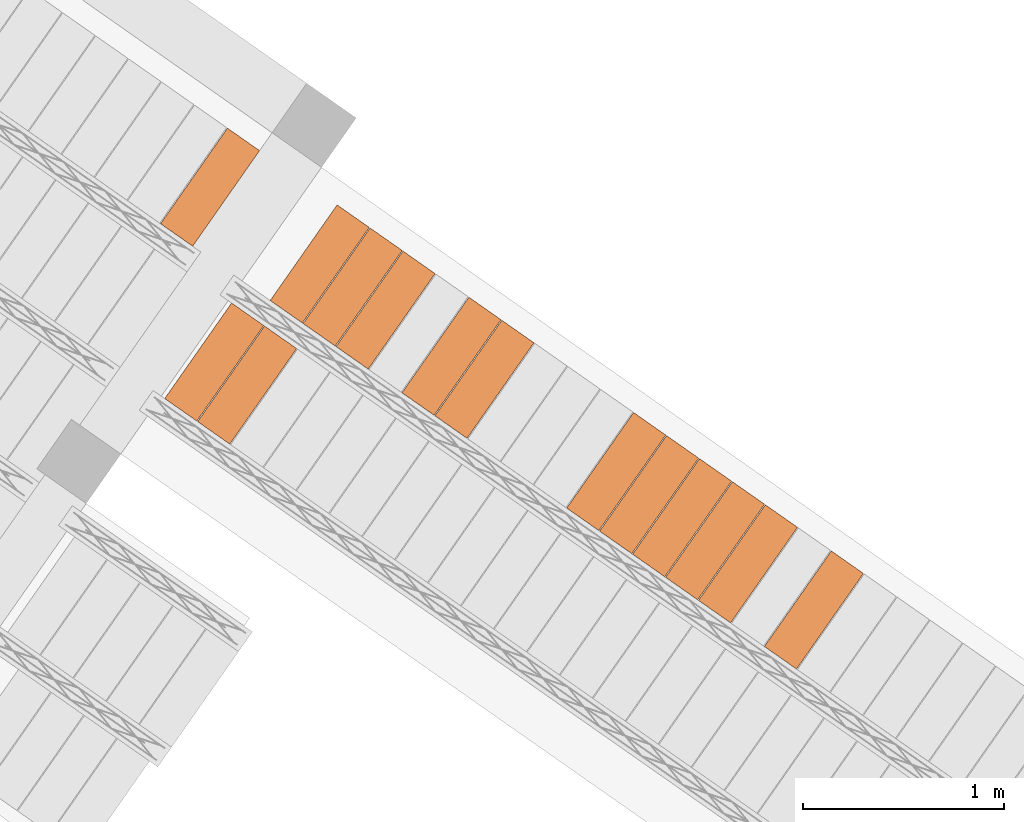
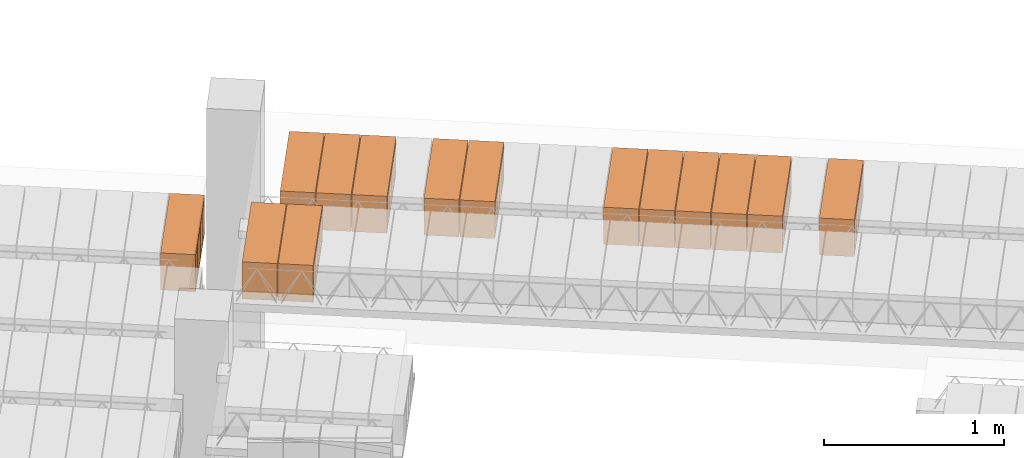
# One storey, part 79 of 80: 14 proxies.
"""IFC2X3 building model written with IfcOpenShell, lengths in metres."""

from ifc_helpers import new_model, entity, si_unit, converted_unit, derived_unit, direction, frame, origin, place, context, subcontext, project, spatial, polyline, outline, extrude, type_object, element, save


model = new_model("IFC2X3")

# Units and contexts
model_context = context("Model", 3, precision=1e-05, world=origin(), true_north=direction((6.123031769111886e-17, 1.0)))
body_context = subcontext(model_context, "Body", "Model", "MODEL_VIEW")
ifc_project = project(units=[si_unit("LENGTHUNIT", "METRE"), si_unit("AREAUNIT", "SQUARE_METRE"), si_unit("VOLUMEUNIT", "CUBIC_METRE"), converted_unit("PLANEANGLEUNIT", "DEGREE", entity("IfcPlaneAngleMeasure", 0.017453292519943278), si_unit("PLANEANGLEUNIT", "RADIAN"), dimensions=[0, 0, 0, 0, 0, 0, 0]), si_unit("MASSUNIT", "GRAM", prefix="KILO"), derived_unit("MASSDENSITYUNIT", [(si_unit("MASSUNIT", "GRAM", prefix="KILO"), 1), (si_unit("LENGTHUNIT", "METRE"), -3)]), derived_unit("IONCONCENTRATIONUNIT", [(si_unit("MASSUNIT", "GRAM", prefix="KILO"), 1), (si_unit("LENGTHUNIT", "METRE"), -3)]), derived_unit("MOMENTOFINERTIAUNIT", [(si_unit("LENGTHUNIT", "METRE"), 4)]), si_unit("TIMEUNIT", "SECOND"), si_unit("FREQUENCYUNIT", "HERTZ"), si_unit("THERMODYNAMICTEMPERATUREUNIT", "DEGREE_CELSIUS"), derived_unit("THERMALTRANSMITTANCEUNIT", [(si_unit("MASSUNIT", "GRAM", prefix="KILO"), 1), (si_unit("THERMODYNAMICTEMPERATUREUNIT", "KELVIN"), -1), (si_unit("TIMEUNIT", "SECOND"), -3)]), derived_unit("THERMALCONDUCTANCEUNIT", [(si_unit("MASSUNIT", "GRAM", prefix="KILO"), 1), (si_unit("THERMODYNAMICTEMPERATUREUNIT", "KELVIN"), -1), (si_unit("TIMEUNIT", "SECOND"), -3), (si_unit("LENGTHUNIT", "METRE"), 1)]), derived_unit("VOLUMETRICFLOWRATEUNIT", [(si_unit("LENGTHUNIT", "METRE", prefix="DECI"), 3), (si_unit("TIMEUNIT", "SECOND"), -1)]), derived_unit("MASSFLOWRATEUNIT", [(si_unit("MASSUNIT", "GRAM", prefix="KILO"), 1), (si_unit("TIMEUNIT", "SECOND"), -1)]), derived_unit("ROTATIONALFREQUENCYUNIT", [(si_unit("TIMEUNIT", "SECOND"), -1)]), si_unit("ELECTRICCURRENTUNIT", "AMPERE"), si_unit("ELECTRICVOLTAGEUNIT", "VOLT"), si_unit("POWERUNIT", "WATT"), si_unit("FORCEUNIT", "NEWTON", prefix="KILO"), si_unit("ILLUMINANCEUNIT", "LUX"), si_unit("LUMINOUSFLUXUNIT", "LUMEN"), si_unit("LUMINOUSINTENSITYUNIT", "CANDELA"), si_unit("ENERGYUNIT", "JOULE"), derived_unit("USERDEFINED", [(si_unit("MASSUNIT", "GRAM", prefix="KILO"), -1), (si_unit("LENGTHUNIT", "METRE"), -2), (si_unit("TIMEUNIT", "SECOND"), 3), (si_unit("LUMINOUSFLUXUNIT", "LUMEN"), 1)]), derived_unit("USERDEFINED", [(si_unit("MASSUNIT", "GRAM", prefix="KILO"), 1), (si_unit("TIMEUNIT", "SECOND"), -3), (si_unit("LENGTHUNIT", "METRE"), 3), (si_unit("ELECTRICCURRENTUNIT", "AMPERE"), -2)]), derived_unit("SOUNDPOWERUNIT", [(si_unit("MASSUNIT", "GRAM", prefix="KILO"), 1), (si_unit("TIMEUNIT", "SECOND"), -3), (si_unit("LENGTHUNIT", "METRE"), 2)]), derived_unit("SOUNDPRESSUREUNIT", [(si_unit("MASSUNIT", "GRAM", prefix="KILO"), 1), (si_unit("LENGTHUNIT", "METRE"), -1), (si_unit("TIMEUNIT", "SECOND"), -2)]), derived_unit("LINEARVELOCITYUNIT", [(si_unit("LENGTHUNIT", "METRE"), 1), (si_unit("TIMEUNIT", "SECOND"), -1)]), si_unit("PRESSUREUNIT", "PASCAL"), derived_unit("USERDEFINED", [(si_unit("MASSUNIT", "GRAM", prefix="KILO"), 1), (si_unit("LENGTHUNIT", "METRE"), -2), (si_unit("TIMEUNIT", "SECOND"), -2)]), derived_unit("LINEARFORCEUNIT", [(si_unit("MASSUNIT", "GRAM", prefix="KILO"), 1), (si_unit("TIMEUNIT", "SECOND"), -2)]), derived_unit("PLANARFORCEUNIT", [(si_unit("MASSUNIT", "GRAM", prefix="KILO"), 1), (si_unit("LENGTHUNIT", "METRE"), -1), (si_unit("TIMEUNIT", "SECOND"), -2)]), derived_unit("SPECIFICHEATCAPACITYUNIT", [(si_unit("THERMODYNAMICTEMPERATUREUNIT", "KELVIN"), -1), (si_unit("LENGTHUNIT", "METRE"), 2), (si_unit("TIMEUNIT", "SECOND"), -2)]), derived_unit("HEATFLUXDENSITYUNIT", [(si_unit("MASSUNIT", "GRAM", prefix="KILO"), 1), (si_unit("TIMEUNIT", "SECOND"), -3)]), derived_unit("HEATINGVALUEUNIT", [(si_unit("LENGTHUNIT", "METRE"), 2), (si_unit("TIMEUNIT", "SECOND"), -2)]), derived_unit("VAPORPERMEABILITYUNIT", [(si_unit("LENGTHUNIT", "METRE"), -1), (si_unit("TIMEUNIT", "SECOND"), 1)]), derived_unit("DYNAMICVISCOSITYUNIT", [(si_unit("MASSUNIT", "GRAM", prefix="KILO"), 1), (si_unit("TIMEUNIT", "SECOND"), -1), (si_unit("LENGTHUNIT", "METRE"), -1)]), derived_unit("THERMALEXPANSIONCOEFFICIENTUNIT", [(si_unit("THERMODYNAMICTEMPERATUREUNIT", "KELVIN"), -1)]), derived_unit("MODULUSOFELASTICITYUNIT", [(si_unit("MASSUNIT", "GRAM", prefix="KILO"), 1), (si_unit("LENGTHUNIT", "METRE"), -1), (si_unit("TIMEUNIT", "SECOND"), -2)]), derived_unit("ISOTHERMALMOISTURECAPACITYUNIT", [(si_unit("MASSUNIT", "GRAM", prefix="KILO"), -1), (si_unit("LENGTHUNIT", "METRE"), 3)]), derived_unit("MOISTUREDIFFUSIVITYUNIT", [(si_unit("TIMEUNIT", "SECOND"), -1), (si_unit("LENGTHUNIT", "METRE"), 2)]), derived_unit("MASSPERLENGTHUNIT", [(si_unit("MASSUNIT", "GRAM", prefix="KILO"), 1), (si_unit("LENGTHUNIT", "METRE"), -1)]), derived_unit("THERMALRESISTANCEUNIT", [(si_unit("MASSUNIT", "GRAM", prefix="KILO"), -1), (si_unit("TIMEUNIT", "SECOND"), 3), (si_unit("THERMODYNAMICTEMPERATUREUNIT", "KELVIN"), 1)]), derived_unit("ACCELERATIONUNIT", [(si_unit("LENGTHUNIT", "METRE"), 1), (si_unit("TIMEUNIT", "SECOND"), -2)]), derived_unit("ANGULARVELOCITYUNIT", [(si_unit("TIMEUNIT", "SECOND"), -1), (si_unit("PLANEANGLEUNIT", "RADIAN"), 1)]), derived_unit("LINEARSTIFFNESSUNIT", [(si_unit("MASSUNIT", "GRAM", prefix="KILO"), 1), (si_unit("TIMEUNIT", "SECOND"), -2)]), derived_unit("WARPINGCONSTANTUNIT", [(si_unit("LENGTHUNIT", "METRE"), 6)]), derived_unit("LINEARMOMENTUNIT", [(si_unit("MASSUNIT", "GRAM", prefix="KILO"), 1), (si_unit("LENGTHUNIT", "METRE"), 1), (si_unit("TIMEUNIT", "SECOND"), -2)]), derived_unit("TORQUEUNIT", [(si_unit("MASSUNIT", "GRAM", prefix="KILO"), 1), (si_unit("LENGTHUNIT", "METRE"), 2), (si_unit("TIMEUNIT", "SECOND"), -2)])], contexts=[model_context])

# Site, building, storey
site_placement = place(None, origin())
site = spatial("IfcSite", under=ifc_project, at=site_placement, Name="Default", CompositionType="ELEMENT")
building_placement = place(site_placement, origin())
building = spatial("IfcBuilding", under=site, at=building_placement, CompositionType="ELEMENT")
storey_placement = place(building_placement, frame((0.0, 0.0, 95.94)))
storey = spatial("IfcBuildingStorey", under=building, at=storey_placement, Name="PB", CompositionType="ELEMENT", Elevation=95.94)

# Proxies
building_element_proxy_type_1 = type_object("IfcBuildingElementProxyType", Name="Bovedilla 14-1 (Paño 2)", PredefinedType="USERDEFINED")
proxy_1_placement = place(storey_placement, origin())
element("IfcBuildingElementProxy", 1, at=proxy_1_placement, inside=storey, type_object=building_element_proxy_type_1, Name="Bovedilla 14-1 (Paño 2)", ObjectType="FORM", context=body_context, shape_type="SweptSolid", body=[
    extrude(outline(polyline([(-0.28999999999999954, -0.12500000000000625), (0.28999999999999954, -0.12500000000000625), (0.28999999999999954, 0.12500000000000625), (-0.28999999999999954, 0.12500000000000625), (-0.28999999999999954, -0.12500000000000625)]), holes=[polyline([(0.26999999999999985, -0.10499999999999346), (0.15500000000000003, -0.10499999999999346), (0.15500000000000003, 0.10499999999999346), (0.26999999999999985, 0.10499999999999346), (0.26999999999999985, 0.042499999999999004), (0.26999999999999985, -0.10499999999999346)]), polyline([(0.009999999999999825, -0.10499999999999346), (0.009999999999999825, 0.10499999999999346), (0.1350000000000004, 0.10499999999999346), (0.1350000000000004, -0.10499999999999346), (0.009999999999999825, -0.10499999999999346)]), polyline([(-0.1350000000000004, 0.10499999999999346), (-0.009999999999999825, 0.10499999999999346), (-0.009999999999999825, -0.10499999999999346), (-0.1350000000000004, -0.10499999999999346), (-0.1350000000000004, 0.10499999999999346)]), polyline([(-0.26999999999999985, -0.10499999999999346), (-0.26999999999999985, 0.042499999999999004), (-0.26999999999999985, 0.10499999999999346), (-0.15500000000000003, 0.10499999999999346), (-0.15500000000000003, -0.10499999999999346), (-0.26999999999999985, -0.10499999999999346)])]), frame((6.402701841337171, 8.946255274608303, 2.945000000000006), z_axis=(0.8191520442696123, -0.5735764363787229, 0.0), x_axis=(-0.5735764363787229, -0.8191520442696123, 0.0)), (0.0, 0.0, 1.0), 0.19499999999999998),
])
building_element_proxy_type_2 = type_object("IfcBuildingElementProxyType", Name="Bovedilla 1-24 (Paño 15)", PredefinedType="USERDEFINED")
proxy_2_placement = place(storey_placement, origin())
element("IfcBuildingElementProxy", 2, at=proxy_2_placement, inside=storey, type_object=building_element_proxy_type_2, Name="Bovedilla 1-24 (Paño 15)", ObjectType="FORM", context=body_context, shape_type="SweptSolid", body=[
    extrude(outline(polyline([(-0.28999999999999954, -0.12500000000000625), (0.28999999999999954, -0.12500000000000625), (0.28999999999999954, 0.12500000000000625), (-0.28999999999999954, 0.12500000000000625), (-0.28999999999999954, -0.12500000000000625)]), holes=[polyline([(0.26999999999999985, -0.10499999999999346), (0.15500000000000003, -0.10499999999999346), (0.15500000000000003, 0.10499999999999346), (0.26999999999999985, 0.10499999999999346), (0.26999999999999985, 0.042499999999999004), (0.26999999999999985, -0.10499999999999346)]), polyline([(0.009999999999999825, -0.10499999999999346), (0.009999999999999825, 0.10499999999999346), (0.1350000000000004, 0.10499999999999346), (0.1350000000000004, -0.10499999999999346), (0.009999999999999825, -0.10499999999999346)]), polyline([(-0.1350000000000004, 0.10499999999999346), (-0.009999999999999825, 0.10499999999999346), (-0.009999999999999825, -0.10499999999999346), (-0.1350000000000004, -0.10499999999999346), (-0.1350000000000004, 0.10499999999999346)]), polyline([(-0.26999999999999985, -0.10499999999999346), (-0.26999999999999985, 0.042499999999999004), (-0.26999999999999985, 0.10499999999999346), (-0.15500000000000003, 0.10499999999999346), (-0.15500000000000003, -0.10499999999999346), (-0.26999999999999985, -0.10499999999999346)])]), frame((6.587059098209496, 7.9620143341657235, 3.4050000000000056), z_axis=(0.8191520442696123, -0.5735764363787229, 0.0), x_axis=(-0.5735764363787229, -0.8191520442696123, 0.0)), (0.0, 0.0, 1.0), 0.19499999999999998),
])
building_element_proxy_type_3 = type_object("IfcBuildingElementProxyType", Name="Bovedilla 1-25 (Paño 15)", PredefinedType="USERDEFINED")
proxy_3_placement = place(storey_placement, origin())
element("IfcBuildingElementProxy", 3, at=proxy_3_placement, inside=storey, type_object=building_element_proxy_type_3, Name="Bovedilla 1-25 (Paño 15)", ObjectType="FORM", context=body_context, shape_type="SweptSolid", body=[
    extrude(outline(polyline([(-0.28999999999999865, -0.12500000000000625), (0.2900000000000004, -0.12500000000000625), (0.2900000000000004, 0.12500000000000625), (-0.28999999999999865, 0.12500000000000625), (-0.28999999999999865, -0.12500000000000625)]), holes=[polyline([(0.2700000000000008, -0.10499999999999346), (0.15500000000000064, -0.10499999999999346), (0.15500000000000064, 0.10499999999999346), (0.2700000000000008, 0.10499999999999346), (0.2700000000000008, 0.042499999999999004), (0.2700000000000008, -0.10499999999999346)]), polyline([(0.010000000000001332, -0.10499999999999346), (0.010000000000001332, 0.10499999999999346), (0.1350000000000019, 0.10499999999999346), (0.1350000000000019, -0.10499999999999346), (0.010000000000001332, -0.10499999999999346)]), polyline([(-0.1349999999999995, 0.10499999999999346), (-0.009999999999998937, 0.10499999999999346), (-0.009999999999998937, -0.10499999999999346), (-0.1349999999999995, -0.10499999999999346), (-0.1349999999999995, 0.10499999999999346)]), polyline([(-0.26999999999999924, -0.10499999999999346), (-0.26999999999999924, 0.042499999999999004), (-0.26999999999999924, 0.10499999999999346), (-0.15499999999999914, 0.10499999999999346), (-0.15499999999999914, -0.10499999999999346), (-0.26999999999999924, -0.10499999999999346)])]), frame((6.4232286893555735, 8.076729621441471, 3.4050000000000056), z_axis=(0.8191520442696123, -0.5735764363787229, 0.0), x_axis=(-0.5735764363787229, -0.8191520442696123, 0.0)), (0.0, 0.0, 1.0), 0.19499999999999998),
])
building_element_proxy_type_4 = type_object("IfcBuildingElementProxyType", Name="Bovedilla 2-9 (Paño 15)", PredefinedType="USERDEFINED")
proxy_4_placement = place(storey_placement, origin())
element("IfcBuildingElementProxy", 4, at=proxy_4_placement, inside=storey, type_object=building_element_proxy_type_4, Name="Bovedilla 2-9 (Paño 15)", ObjectType="FORM", context=body_context, shape_type="SweptSolid", body=[
    extrude(outline(polyline([(-0.28999999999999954, -0.12500000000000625), (0.28999999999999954, -0.12500000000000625), (0.28999999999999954, 0.12500000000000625), (-0.28999999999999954, 0.12500000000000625), (-0.28999999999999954, -0.12500000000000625)]), holes=[polyline([(0.26999999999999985, -0.10499999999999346), (0.15500000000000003, -0.10499999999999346), (0.15500000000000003, 0.10499999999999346), (0.26999999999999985, 0.10499999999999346), (0.26999999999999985, 0.042499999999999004), (0.26999999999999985, -0.10499999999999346)]), polyline([(0.009999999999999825, -0.10499999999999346), (0.009999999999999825, 0.10499999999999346), (0.1350000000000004, 0.10499999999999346), (0.1350000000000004, -0.10499999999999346), (0.009999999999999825, -0.10499999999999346)]), polyline([(-0.1350000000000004, 0.10499999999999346), (-0.009999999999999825, 0.10499999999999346), (-0.009999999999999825, -0.10499999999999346), (-0.1350000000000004, -0.10499999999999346), (-0.1350000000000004, 0.10499999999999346)]), polyline([(-0.26999999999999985, -0.10499999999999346), (-0.26999999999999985, 0.042499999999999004), (-0.26999999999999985, 0.10499999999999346), (-0.15500000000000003, 0.10499999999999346), (-0.15500000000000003, -0.10499999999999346), (-0.26999999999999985, -0.10499999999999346)])]), frame((9.405347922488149, 6.843779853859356, 3.4050000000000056), z_axis=(0.8191520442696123, -0.5735764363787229, 0.0), x_axis=(-0.5735764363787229, -0.8191520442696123, 0.0)), (0.0, 0.0, 1.0), 0.19499999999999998),
])
building_element_proxy_type_5 = type_object("IfcBuildingElementProxyType", Name="Bovedilla 2-11 (Paño 15)", PredefinedType="USERDEFINED")
proxy_5_placement = place(storey_placement, origin())
element("IfcBuildingElementProxy", 5, at=proxy_5_placement, inside=storey, type_object=building_element_proxy_type_5, Name="Bovedilla 2-11 (Paño 15)", ObjectType="FORM", context=body_context, shape_type="SweptSolid", body=[
    extrude(outline(polyline([(-0.28999999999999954, -0.12500000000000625), (0.28999999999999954, -0.12500000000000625), (0.28999999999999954, 0.12500000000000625), (-0.28999999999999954, 0.12500000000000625), (-0.28999999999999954, -0.12500000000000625)]), holes=[polyline([(0.26999999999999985, -0.10499999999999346), (0.15500000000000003, -0.10499999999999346), (0.15500000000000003, 0.10499999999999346), (0.26999999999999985, 0.10499999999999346), (0.26999999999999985, 0.042499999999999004), (0.26999999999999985, -0.10499999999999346)]), polyline([(0.009999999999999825, -0.10499999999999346), (0.009999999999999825, 0.10499999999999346), (0.1350000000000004, 0.10499999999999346), (0.1350000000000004, -0.10499999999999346), (0.009999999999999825, -0.10499999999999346)]), polyline([(-0.1350000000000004, 0.10499999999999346), (-0.009999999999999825, 0.10499999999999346), (-0.009999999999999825, -0.10499999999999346), (-0.1350000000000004, -0.10499999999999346), (-0.1350000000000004, 0.10499999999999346)]), polyline([(-0.26999999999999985, -0.10499999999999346), (-0.26999999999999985, 0.042499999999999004), (-0.26999999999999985, 0.10499999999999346), (-0.15500000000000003, 0.10499999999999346), (-0.15500000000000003, -0.10499999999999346), (-0.26999999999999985, -0.10499999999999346)])]), frame((9.077687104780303, 7.073210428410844, 3.4050000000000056), z_axis=(0.8191520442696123, -0.5735764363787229, 0.0), x_axis=(-0.5735764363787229, -0.8191520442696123, 0.0)), (0.0, 0.0, 1.0), 0.19499999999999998),
])
building_element_proxy_type_6 = type_object("IfcBuildingElementProxyType", Name="Bovedilla 2-12 (Paño 15)", PredefinedType="USERDEFINED")
proxy_6_placement = place(storey_placement, origin())
element("IfcBuildingElementProxy", 6, at=proxy_6_placement, inside=storey, type_object=building_element_proxy_type_6, Name="Bovedilla 2-12 (Paño 15)", ObjectType="FORM", context=body_context, shape_type="SweptSolid", body=[
    extrude(outline(polyline([(-0.28999999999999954, -0.12500000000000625), (0.28999999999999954, -0.12500000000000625), (0.28999999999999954, 0.12500000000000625), (-0.28999999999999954, 0.12500000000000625), (-0.28999999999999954, -0.12500000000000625)]), holes=[polyline([(0.26999999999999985, -0.10499999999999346), (0.15500000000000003, -0.10499999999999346), (0.15500000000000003, 0.10499999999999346), (0.26999999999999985, 0.10499999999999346), (0.26999999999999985, 0.042499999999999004), (0.26999999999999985, -0.10499999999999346)]), polyline([(0.009999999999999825, -0.10499999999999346), (0.009999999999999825, 0.10499999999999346), (0.1350000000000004, 0.10499999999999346), (0.1350000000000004, -0.10499999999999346), (0.009999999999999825, -0.10499999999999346)]), polyline([(-0.1350000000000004, 0.10499999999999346), (-0.009999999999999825, 0.10499999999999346), (-0.009999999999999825, -0.10499999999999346), (-0.1350000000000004, -0.10499999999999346), (-0.1350000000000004, 0.10499999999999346)]), polyline([(-0.26999999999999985, -0.10499999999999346), (-0.26999999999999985, 0.042499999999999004), (-0.26999999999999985, 0.10499999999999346), (-0.15500000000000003, 0.10499999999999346), (-0.15500000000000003, -0.10499999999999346), (-0.26999999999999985, -0.10499999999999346)])]), frame((8.91385669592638, 7.187925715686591, 3.4050000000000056), z_axis=(0.8191520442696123, -0.5735764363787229, 0.0), x_axis=(-0.5735764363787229, -0.8191520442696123, 0.0)), (0.0, 0.0, 1.0), 0.19499999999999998),
])
building_element_proxy_type_7 = type_object("IfcBuildingElementProxyType", Name="Bovedilla 2-13 (Paño 15)", PredefinedType="USERDEFINED")
proxy_7_placement = place(storey_placement, origin())
element("IfcBuildingElementProxy", 7, at=proxy_7_placement, inside=storey, type_object=building_element_proxy_type_7, Name="Bovedilla 2-13 (Paño 15)", ObjectType="FORM", context=body_context, shape_type="SweptSolid", body=[
    extrude(outline(polyline([(-0.28999999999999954, -0.12500000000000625), (0.28999999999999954, -0.12500000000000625), (0.28999999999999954, 0.12500000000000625), (-0.28999999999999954, 0.12500000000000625), (-0.28999999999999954, -0.12500000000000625)]), holes=[polyline([(0.26999999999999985, -0.10499999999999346), (0.15500000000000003, -0.10499999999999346), (0.15500000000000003, 0.10499999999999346), (0.26999999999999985, 0.10499999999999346), (0.26999999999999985, 0.042499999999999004), (0.26999999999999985, -0.10499999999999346)]), polyline([(0.009999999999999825, -0.10499999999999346), (0.009999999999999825, 0.10499999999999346), (0.1350000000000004, 0.10499999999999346), (0.1350000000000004, -0.10499999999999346), (0.009999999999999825, -0.10499999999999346)]), polyline([(-0.1350000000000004, 0.10499999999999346), (-0.009999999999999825, 0.10499999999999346), (-0.009999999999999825, -0.10499999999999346), (-0.1350000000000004, -0.10499999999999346), (-0.1350000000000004, 0.10499999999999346)]), polyline([(-0.26999999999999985, -0.10499999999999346), (-0.26999999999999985, 0.042499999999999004), (-0.26999999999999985, 0.10499999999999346), (-0.15500000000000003, 0.10499999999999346), (-0.15500000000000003, -0.10499999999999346), (-0.26999999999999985, -0.10499999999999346)])]), frame((8.750026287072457, 7.302641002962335, 3.4050000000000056), z_axis=(0.8191520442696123, -0.5735764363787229, 0.0), x_axis=(-0.5735764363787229, -0.8191520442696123, 0.0)), (0.0, 0.0, 1.0), 0.19499999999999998),
])
building_element_proxy_type_8 = type_object("IfcBuildingElementProxyType", Name="Bovedilla 2-14 (Paño 15)", PredefinedType="USERDEFINED")
proxy_8_placement = place(storey_placement, origin())
element("IfcBuildingElementProxy", 8, at=proxy_8_placement, inside=storey, type_object=building_element_proxy_type_8, Name="Bovedilla 2-14 (Paño 15)", ObjectType="FORM", context=body_context, shape_type="SweptSolid", body=[
    extrude(outline(polyline([(-0.28999999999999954, -0.12500000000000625), (0.28999999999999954, -0.12500000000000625), (0.28999999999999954, 0.12500000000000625), (-0.28999999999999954, 0.12500000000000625), (-0.28999999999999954, -0.12500000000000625)]), holes=[polyline([(0.26999999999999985, -0.10499999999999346), (0.15500000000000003, -0.10499999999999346), (0.15500000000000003, 0.10499999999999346), (0.26999999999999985, 0.10499999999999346), (0.26999999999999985, 0.042499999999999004), (0.26999999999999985, -0.10499999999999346)]), polyline([(0.009999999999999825, -0.10499999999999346), (0.009999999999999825, 0.10499999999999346), (0.1350000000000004, 0.10499999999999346), (0.1350000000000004, -0.10499999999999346), (0.009999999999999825, -0.10499999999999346)]), polyline([(-0.1350000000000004, 0.10499999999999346), (-0.009999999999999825, 0.10499999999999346), (-0.009999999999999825, -0.10499999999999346), (-0.1350000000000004, -0.10499999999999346), (-0.1350000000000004, 0.10499999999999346)]), polyline([(-0.26999999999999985, -0.10499999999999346), (-0.26999999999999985, 0.042499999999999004), (-0.26999999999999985, 0.10499999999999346), (-0.15500000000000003, 0.10499999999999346), (-0.15500000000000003, -0.10499999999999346), (-0.26999999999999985, -0.10499999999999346)])]), frame((8.586195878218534, 7.41735629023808, 3.4050000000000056), z_axis=(0.8191520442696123, -0.5735764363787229, 0.0), x_axis=(-0.5735764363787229, -0.8191520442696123, 0.0)), (0.0, 0.0, 1.0), 0.19499999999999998),
])
building_element_proxy_type_9 = type_object("IfcBuildingElementProxyType", Name="Bovedilla 2-15 (Paño 15)", PredefinedType="USERDEFINED")
proxy_9_placement = place(storey_placement, origin())
element("IfcBuildingElementProxy", 9, at=proxy_9_placement, inside=storey, type_object=building_element_proxy_type_9, Name="Bovedilla 2-15 (Paño 15)", ObjectType="FORM", context=body_context, shape_type="SweptSolid", body=[
    extrude(outline(polyline([(-0.28999999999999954, -0.12500000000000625), (0.28999999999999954, -0.12500000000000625), (0.28999999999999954, 0.12500000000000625), (-0.28999999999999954, 0.12500000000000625), (-0.28999999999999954, -0.12500000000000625)]), holes=[polyline([(0.26999999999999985, -0.10499999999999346), (0.15500000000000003, -0.10499999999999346), (0.15500000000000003, 0.10499999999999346), (0.26999999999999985, 0.10499999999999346), (0.26999999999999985, 0.042499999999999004), (0.26999999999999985, -0.10499999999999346)]), polyline([(0.009999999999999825, -0.10499999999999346), (0.009999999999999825, 0.10499999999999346), (0.1350000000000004, 0.10499999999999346), (0.1350000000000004, -0.10499999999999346), (0.009999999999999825, -0.10499999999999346)]), polyline([(-0.1350000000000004, 0.10499999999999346), (-0.009999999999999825, 0.10499999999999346), (-0.009999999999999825, -0.10499999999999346), (-0.1350000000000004, -0.10499999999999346), (-0.1350000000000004, 0.10499999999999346)]), polyline([(-0.26999999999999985, -0.10499999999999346), (-0.26999999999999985, 0.042499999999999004), (-0.26999999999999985, 0.10499999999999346), (-0.15500000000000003, 0.10499999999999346), (-0.15500000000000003, -0.10499999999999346), (-0.26999999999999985, -0.10499999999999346)])]), frame((8.422365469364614, 7.532071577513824, 3.4050000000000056), z_axis=(0.8191520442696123, -0.5735764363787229, 0.0), x_axis=(-0.5735764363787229, -0.8191520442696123, 0.0)), (0.0, 0.0, 1.0), 0.19499999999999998),
])
building_element_proxy_type_10 = type_object("IfcBuildingElementProxyType", Name="Bovedilla 2-19 (Paño 15)", PredefinedType="USERDEFINED")
proxy_10_placement = place(storey_placement, origin())
element("IfcBuildingElementProxy", 10, at=proxy_10_placement, inside=storey, type_object=building_element_proxy_type_10, Name="Bovedilla 2-19 (Paño 15)", ObjectType="FORM", context=body_context, shape_type="SweptSolid", body=[
    extrude(outline(polyline([(-0.28999999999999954, -0.12500000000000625), (0.28999999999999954, -0.12500000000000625), (0.28999999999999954, 0.12500000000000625), (-0.28999999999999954, 0.12500000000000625), (-0.28999999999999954, -0.12500000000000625)]), holes=[polyline([(0.26999999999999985, -0.10499999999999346), (0.15500000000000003, -0.10499999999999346), (0.15500000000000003, 0.10499999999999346), (0.26999999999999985, 0.10499999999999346), (0.26999999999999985, 0.042499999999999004), (0.26999999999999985, -0.10499999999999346)]), polyline([(0.009999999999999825, -0.10499999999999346), (0.009999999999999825, 0.10499999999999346), (0.1350000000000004, 0.10499999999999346), (0.1350000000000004, -0.10499999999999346), (0.009999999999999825, -0.10499999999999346)]), polyline([(-0.1350000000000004, 0.10499999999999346), (-0.009999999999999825, 0.10499999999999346), (-0.009999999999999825, -0.10499999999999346), (-0.1350000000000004, -0.10499999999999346), (-0.1350000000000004, 0.10499999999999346)]), polyline([(-0.26999999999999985, -0.10499999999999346), (-0.26999999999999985, 0.042499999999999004), (-0.26999999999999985, 0.10499999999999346), (-0.15500000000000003, 0.10499999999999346), (-0.15500000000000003, -0.10499999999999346), (-0.26999999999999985, -0.10499999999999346)])]), frame((7.7670438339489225, 7.9909327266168, 3.4050000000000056), z_axis=(0.8191520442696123, -0.5735764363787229, 0.0), x_axis=(-0.5735764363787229, -0.8191520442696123, 0.0)), (0.0, 0.0, 1.0), 0.19499999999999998),
])
building_element_proxy_type_11 = type_object("IfcBuildingElementProxyType", Name="Bovedilla 2-20 (Paño 15)", PredefinedType="USERDEFINED")
proxy_11_placement = place(storey_placement, origin())
element("IfcBuildingElementProxy", 11, at=proxy_11_placement, inside=storey, type_object=building_element_proxy_type_11, Name="Bovedilla 2-20 (Paño 15)", ObjectType="FORM", context=body_context, shape_type="SweptSolid", body=[
    extrude(outline(polyline([(-0.28999999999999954, -0.12500000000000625), (0.28999999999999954, -0.12500000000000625), (0.28999999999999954, 0.12500000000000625), (-0.28999999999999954, 0.12500000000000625), (-0.28999999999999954, -0.12500000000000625)]), holes=[polyline([(0.26999999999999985, -0.10499999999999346), (0.15500000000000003, -0.10499999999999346), (0.15500000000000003, 0.10499999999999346), (0.26999999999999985, 0.10499999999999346), (0.26999999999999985, 0.042499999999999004), (0.26999999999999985, -0.10499999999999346)]), polyline([(0.009999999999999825, -0.10499999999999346), (0.009999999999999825, 0.10499999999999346), (0.1350000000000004, 0.10499999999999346), (0.1350000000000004, -0.10499999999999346), (0.009999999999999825, -0.10499999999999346)]), polyline([(-0.1350000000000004, 0.10499999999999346), (-0.009999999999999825, 0.10499999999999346), (-0.009999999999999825, -0.10499999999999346), (-0.1350000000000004, -0.10499999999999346), (-0.1350000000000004, 0.10499999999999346)]), polyline([(-0.26999999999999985, -0.10499999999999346), (-0.26999999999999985, 0.042499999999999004), (-0.26999999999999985, 0.10499999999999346), (-0.15500000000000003, 0.10499999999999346), (-0.15500000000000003, -0.10499999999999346), (-0.26999999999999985, -0.10499999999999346)])]), frame((7.603213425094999, 8.105648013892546, 3.4050000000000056), z_axis=(0.8191520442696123, -0.5735764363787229, 0.0), x_axis=(-0.5735764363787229, -0.8191520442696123, 0.0)), (0.0, 0.0, 1.0), 0.19499999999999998),
])
building_element_proxy_type_12 = type_object("IfcBuildingElementProxyType", Name="Bovedilla 2-22 (Paño 15)", PredefinedType="USERDEFINED")
proxy_12_placement = place(storey_placement, origin())
element("IfcBuildingElementProxy", 12, at=proxy_12_placement, inside=storey, type_object=building_element_proxy_type_12, Name="Bovedilla 2-22 (Paño 15)", ObjectType="FORM", context=body_context, shape_type="SweptSolid", body=[
    extrude(outline(polyline([(-0.28999999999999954, -0.12500000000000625), (0.28999999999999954, -0.12500000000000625), (0.28999999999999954, 0.12500000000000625), (-0.28999999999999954, 0.12500000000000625), (-0.28999999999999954, -0.12500000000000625)]), holes=[polyline([(0.26999999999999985, -0.10499999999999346), (0.15500000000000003, -0.10499999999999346), (0.15500000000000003, 0.10499999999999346), (0.26999999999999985, 0.10499999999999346), (0.26999999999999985, 0.042499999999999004), (0.26999999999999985, -0.10499999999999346)]), polyline([(0.009999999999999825, -0.10499999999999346), (0.009999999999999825, 0.10499999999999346), (0.1350000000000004, 0.10499999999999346), (0.1350000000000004, -0.10499999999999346), (0.009999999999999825, -0.10499999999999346)]), polyline([(-0.1350000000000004, 0.10499999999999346), (-0.009999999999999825, 0.10499999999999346), (-0.009999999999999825, -0.10499999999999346), (-0.1350000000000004, -0.10499999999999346), (-0.1350000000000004, 0.10499999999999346)]), polyline([(-0.26999999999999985, -0.10499999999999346), (-0.26999999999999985, 0.042499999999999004), (-0.26999999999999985, 0.10499999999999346), (-0.15500000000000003, 0.10499999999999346), (-0.15500000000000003, -0.10499999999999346), (-0.26999999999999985, -0.10499999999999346)])]), frame((7.275552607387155, 8.335078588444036, 3.4050000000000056), z_axis=(0.8191520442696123, -0.5735764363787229, 0.0), x_axis=(-0.5735764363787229, -0.8191520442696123, 0.0)), (0.0, 0.0, 1.0), 0.19499999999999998),
])
building_element_proxy_type_13 = type_object("IfcBuildingElementProxyType", Name="Bovedilla 2-23 (Paño 15)", PredefinedType="USERDEFINED")
proxy_13_placement = place(storey_placement, origin())
element("IfcBuildingElementProxy", 13, at=proxy_13_placement, inside=storey, type_object=building_element_proxy_type_13, Name="Bovedilla 2-23 (Paño 15)", ObjectType="FORM", context=body_context, shape_type="SweptSolid", body=[
    extrude(outline(polyline([(-0.28999999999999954, -0.12500000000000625), (0.28999999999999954, -0.12500000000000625), (0.28999999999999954, 0.12500000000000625), (-0.28999999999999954, 0.12500000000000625), (-0.28999999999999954, -0.12500000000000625)]), holes=[polyline([(0.26999999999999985, -0.10499999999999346), (0.15500000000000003, -0.10499999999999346), (0.15500000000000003, 0.10499999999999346), (0.26999999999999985, 0.10499999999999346), (0.26999999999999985, 0.042499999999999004), (0.26999999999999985, -0.10499999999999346)]), polyline([(0.009999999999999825, -0.10499999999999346), (0.009999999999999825, 0.10499999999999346), (0.1350000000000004, 0.10499999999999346), (0.1350000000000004, -0.10499999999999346), (0.009999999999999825, -0.10499999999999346)]), polyline([(-0.1350000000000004, 0.10499999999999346), (-0.009999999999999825, 0.10499999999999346), (-0.009999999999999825, -0.10499999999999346), (-0.1350000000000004, -0.10499999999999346), (-0.1350000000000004, 0.10499999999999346)]), polyline([(-0.26999999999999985, -0.10499999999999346), (-0.26999999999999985, 0.042499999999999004), (-0.26999999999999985, 0.10499999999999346), (-0.15500000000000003, 0.10499999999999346), (-0.15500000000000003, -0.10499999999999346), (-0.26999999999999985, -0.10499999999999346)])]), frame((7.111722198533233, 8.449793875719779, 3.4050000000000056), z_axis=(0.8191520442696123, -0.5735764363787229, 0.0), x_axis=(-0.5735764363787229, -0.8191520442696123, 0.0)), (0.0, 0.0, 1.0), 0.19499999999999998),
])
building_element_proxy_type_14 = type_object("IfcBuildingElementProxyType", Name="Bovedilla 2-24 (Paño 15)", PredefinedType="USERDEFINED")
proxy_14_placement = place(storey_placement, origin())
element("IfcBuildingElementProxy", 14, at=proxy_14_placement, inside=storey, type_object=building_element_proxy_type_14, Name="Bovedilla 2-24 (Paño 15)", ObjectType="FORM", context=body_context, shape_type="SweptSolid", body=[
    extrude(outline(polyline([(-0.28999999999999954, -0.12500000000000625), (0.28999999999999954, -0.12500000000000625), (0.28999999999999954, 0.12500000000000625), (-0.28999999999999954, 0.12500000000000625), (-0.28999999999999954, -0.12500000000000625)]), holes=[polyline([(0.26999999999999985, -0.10499999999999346), (0.15500000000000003, -0.10499999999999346), (0.15500000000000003, 0.10499999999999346), (0.26999999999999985, 0.10499999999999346), (0.26999999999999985, 0.042499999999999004), (0.26999999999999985, -0.10499999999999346)]), polyline([(0.009999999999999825, -0.10499999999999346), (0.009999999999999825, 0.10499999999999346), (0.1350000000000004, 0.10499999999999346), (0.1350000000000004, -0.10499999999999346), (0.009999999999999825, -0.10499999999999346)]), polyline([(-0.1350000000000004, 0.10499999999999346), (-0.009999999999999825, 0.10499999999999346), (-0.009999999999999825, -0.10499999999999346), (-0.1350000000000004, -0.10499999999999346), (-0.1350000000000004, 0.10499999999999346)]), polyline([(-0.26999999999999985, -0.10499999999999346), (-0.26999999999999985, 0.042499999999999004), (-0.26999999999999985, 0.10499999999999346), (-0.15500000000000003, 0.10499999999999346), (-0.15500000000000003, -0.10499999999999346), (-0.26999999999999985, -0.10499999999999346)])]), frame((6.94789178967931, 8.564509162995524, 3.4050000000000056), z_axis=(0.8191520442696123, -0.5735764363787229, 0.0), x_axis=(-0.5735764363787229, -0.8191520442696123, 0.0)), (0.0, 0.0, 1.0), 0.19499999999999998),
])

save(model, "model.ifc")
